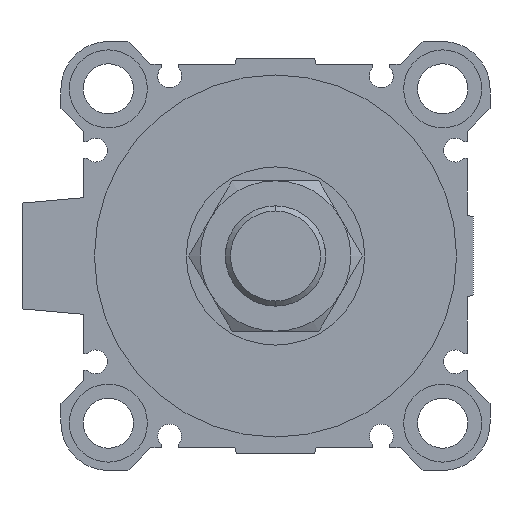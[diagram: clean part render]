
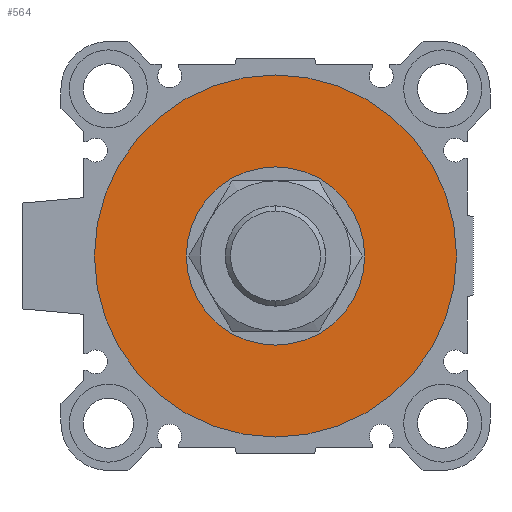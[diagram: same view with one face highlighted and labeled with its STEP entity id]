
A CAD part, left-side view. The second image highlights one B-rep face of the part: STEP entity #564.
In plain terms, the highlighted planar face has unit normal (-1, 0, 0).
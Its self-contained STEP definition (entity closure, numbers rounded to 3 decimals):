
#9 = EDGE_CURVE ( 'NONE', #5230, #5811, #4995, .T. ) ;
#108 = CARTESIAN_POINT ( 'NONE',  ( 4., 0., 0. ) ) ;
#419 = EDGE_CURVE ( 'NONE', #5811, #5230, #1846, .T. ) ;
#564 = ADVANCED_FACE ( 'NONE', ( #6448, #7558 ), #1848, .F. ) ;
#871 = CARTESIAN_POINT ( 'NONE',  ( 4., 0., 0. ) ) ;
#1110 = ORIENTED_EDGE ( 'NONE', *, *, #2351, .T. ) ;
#1846 = CIRCLE ( 'NONE', #4544, 32.5 ) ;
#1848 = PLANE ( 'NONE',  #3437 ) ;
#1877 = VERTEX_POINT ( 'NONE', #4416 ) ;
#1896 = CIRCLE ( 'NONE', #7151, 16. ) ;
#1940 = DIRECTION ( 'NONE',  ( 0., 0., -1. ) ) ;
#2178 = EDGE_LOOP ( 'NONE', ( #6562, #5553 ) ) ;
#2227 = EDGE_CURVE ( 'NONE', #1877, #2492, #1896, .T. ) ;
#2305 = CARTESIAN_POINT ( 'NONE',  ( 4., 0., 0. ) ) ;
#2351 = EDGE_CURVE ( 'NONE', #2492, #1877, #4575, .T. ) ;
#2492 = VERTEX_POINT ( 'NONE', #5187 ) ;
#2610 = ORIENTED_EDGE ( 'NONE', *, *, #2227, .T. ) ;
#2615 = AXIS2_PLACEMENT_3D ( 'NONE', #871, #4962, #3779 ) ;
#2733 = DIRECTION ( 'NONE',  ( 1., 0., 0. ) ) ;
#3437 = AXIS2_PLACEMENT_3D ( 'NONE', #2305, #7133, #5943 ) ;
#3445 = EDGE_LOOP ( 'NONE', ( #2610, #1110 ) ) ;
#3481 = CARTESIAN_POINT ( 'NONE',  ( 4., 0., -32.5 ) ) ;
#3779 = DIRECTION ( 'NONE',  ( 0., 0., -1. ) ) ;
#4416 = CARTESIAN_POINT ( 'NONE',  ( 4., 0., 16. ) ) ;
#4544 = AXIS2_PLACEMENT_3D ( 'NONE', #108, #5961, #1940 ) ;
#4575 = CIRCLE ( 'NONE', #2615, 16. ) ;
#4635 = DIRECTION ( 'NONE',  ( 0., 0., -1. ) ) ;
#4962 = DIRECTION ( 'NONE',  ( 1., 0., 0. ) ) ;
#4995 = CIRCLE ( 'NONE', #7317, 32.5 ) ;
#5187 = CARTESIAN_POINT ( 'NONE',  ( 4., 0., -16. ) ) ;
#5201 = DIRECTION ( 'NONE',  ( 1., 0., 0. ) ) ;
#5230 = VERTEX_POINT ( 'NONE', #6147 ) ;
#5553 = ORIENTED_EDGE ( 'NONE', *, *, #419, .F. ) ;
#5719 = DIRECTION ( 'NONE',  ( 0., 0., -1. ) ) ;
#5811 = VERTEX_POINT ( 'NONE', #3481 ) ;
#5943 = DIRECTION ( 'NONE',  ( 0., 1., 0. ) ) ;
#5961 = DIRECTION ( 'NONE',  ( 1., 0., 0. ) ) ;
#6147 = CARTESIAN_POINT ( 'NONE',  ( 4., 0., 32.5 ) ) ;
#6448 = FACE_OUTER_BOUND ( 'NONE', #2178, .T. ) ;
#6562 = ORIENTED_EDGE ( 'NONE', *, *, #9, .F. ) ;
#7008 = CARTESIAN_POINT ( 'NONE',  ( 4., 0., 0. ) ) ;
#7133 = DIRECTION ( 'NONE',  ( 1., 0., 0. ) ) ;
#7151 = AXIS2_PLACEMENT_3D ( 'NONE', #7409, #2733, #5719 ) ;
#7317 = AXIS2_PLACEMENT_3D ( 'NONE', #7008, #5201, #4635 ) ;
#7409 = CARTESIAN_POINT ( 'NONE',  ( 4., 0., 0. ) ) ;
#7558 = FACE_BOUND ( 'NONE', #3445, .T. ) ;
